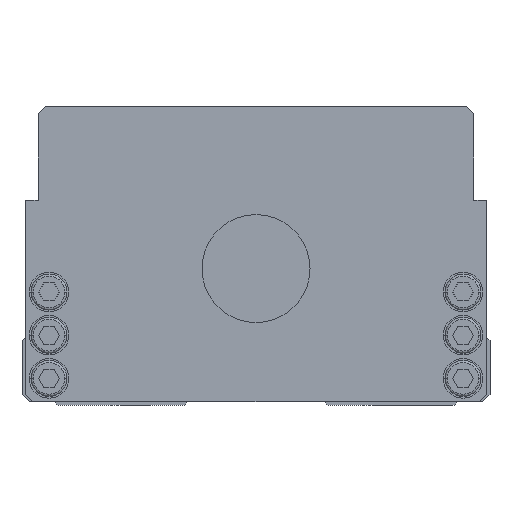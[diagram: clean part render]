
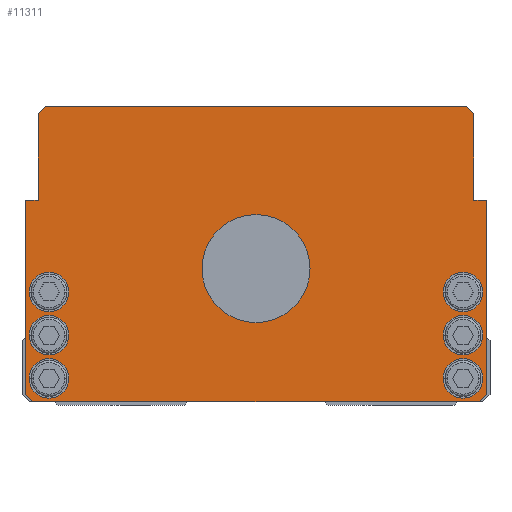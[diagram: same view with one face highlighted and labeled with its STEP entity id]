
A CAD part, front view. The second image highlights one B-rep face of the part: STEP entity #11311.
In plain terms, the highlighted planar face has unit normal (0, -1, 0).
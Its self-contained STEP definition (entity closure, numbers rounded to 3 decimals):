
#4019=VERTEX_POINT('',#11983);
#4331=VERTEX_POINT('',#12330);
#4335=VERTEX_POINT('',#12334);
#4377=EDGE_CURVE('',#11795,#4335,#12378,.T.);
#4527=VERTEX_POINT('',#12545);
#4661=EDGE_CURVE('',#4719,#8179,#12690,.T.);
#4705=EDGE_CURVE('',#7611,#9821,#12739,.T.);
#4719=VERTEX_POINT('',#12754);
#4747=VERTEX_POINT('',#12783);
#5349=VERTEX_POINT('',#13451);
#5449=EDGE_CURVE('',#4747,#10877,#13564,.T.);
#5551=EDGE_CURVE('',#4331,#8771,#13675,.T.);
#5901=EDGE_CURVE('',#8703,#8937,#14075,.T.);
#5915=VERTEX_POINT('',#14093);
#6005=VERTEX_POINT('',#14193);
#6171=EDGE_CURVE('',#8771,#4331,#14378,.T.);
#6297=EDGE_CURVE('',#5349,#8703,#14516,.T.);
#6339=VERTEX_POINT('',#14564);
#6349=EDGE_CURVE('',#8477,#8661,#14575,.T.);
#6655=VERTEX_POINT('',#14913);
#6701=EDGE_CURVE('',#6655,#10827,#14962,.T.);
#7017=EDGE_CURVE('',#4527,#11521,#15312,.T.);
#7083=EDGE_CURVE('',#11521,#4527,#15385,.T.);
#7125=EDGE_CURVE('',#5915,#10189,#15431,.T.);
#7175=EDGE_CURVE('',#8937,#7611,#15488,.T.);
#7211=EDGE_CURVE('',#6339,#10985,#15528,.T.);
#7611=VERTEX_POINT('',#15976);
#8179=VERTEX_POINT('',#16615);
#8477=VERTEX_POINT('',#16959);
#8505=EDGE_CURVE('',#10189,#5915,#16993,.T.);
#8661=VERTEX_POINT('',#17166);
#8703=VERTEX_POINT('',#17211);
#8771=VERTEX_POINT('',#17291);
#8889=VERTEX_POINT('',#17423);
#8903=EDGE_CURVE('',#10877,#6005,#17437,.T.);
#8937=VERTEX_POINT('',#17473);
#9803=EDGE_CURVE('',#6005,#8889,#18419,.T.);
#9821=VERTEX_POINT('',#18439);
#10189=VERTEX_POINT('',#18849);
#10643=EDGE_CURVE('',#10985,#6339,#19363,.T.);
#10693=EDGE_CURVE('',#9821,#4719,#19417,.T.);
#10827=VERTEX_POINT('',#19565);
#10877=VERTEX_POINT('',#19620);
#10985=VERTEX_POINT('',#19739);
#11015=EDGE_CURVE('',#8179,#4747,#19771,.T.);
#11055=EDGE_CURVE('',#8889,#4019,#19817,.T.);
#11301=EDGE_CURVE('',#4019,#5349,#20091,.T.);
#11311=ADVANCED_FACE('',(#20102,#20103,#20104,#20105,#20106,#20107,#20108,#20109),#20110,.T.);
#11521=VERTEX_POINT('',#20348);
#11547=EDGE_CURVE('',#4335,#11795,#20378,.T.);
#11563=EDGE_CURVE('',#8661,#8477,#20396,.T.);
#11795=VERTEX_POINT('',#20649);
#11857=EDGE_CURVE('',#10827,#6655,#20717,.T.);
#11983=CARTESIAN_POINT('',(64.0,0.0,3.0));
#12330=CARTESIAN_POINT('',(52.0,0.0,19.5));
#12334=CARTESIAN_POINT('',(15.0,0.0,38.0));
#12378=CIRCLE('',#21390,15.0);
#12545=CARTESIAN_POINT('',(52.0,0.0,31.5));
#12690=LINE('',#21817,#21818);
#12739=LINE('',#21884,#21885);
#12754=CARTESIAN_POINT('',(-60.5,0.0,81.0));
#12783=CARTESIAN_POINT('',(58.5,0.0,83.0));
#13451=CARTESIAN_POINT('',(62.0,0.0,1.0));
#13564=LINE('',#23010,#23011);
#13675=CIRCLE('',#23174,5.5);
#14075=LINE('',#23722,#23723);
#14093=CARTESIAN_POINT('',(-63.0,0.0,31.5));
#14193=CARTESIAN_POINT('',(60.5,0.0,57.0));
#14378=CIRCLE('',#24144,5.5);
#14516=LINE('',#24344,#24345);
#14564=CARTESIAN_POINT('',(-63.0,0.0,7.5));
#14575=CIRCLE('',#24422,5.5);
#14913=CARTESIAN_POINT('',(63.0,0.0,7.5));
#14962=CIRCLE('',#24963,5.5);
#15312=CIRCLE('',#25435,5.5);
#15385=CIRCLE('',#25539,5.5);
#15431=CIRCLE('',#25599,5.5);
#15488=LINE('',#25676,#25677);
#15528=CIRCLE('',#25737,5.5);
#15976=CARTESIAN_POINT('',(-64.0,0.0,57.0));
#16615=CARTESIAN_POINT('',(-58.5,0.0,83.0));
#16959=CARTESIAN_POINT('',(-52.0,0.0,19.5));
#16993=CIRCLE('',#27713,5.5);
#17166=CARTESIAN_POINT('',(-63.0,0.0,19.5));
#17211=CARTESIAN_POINT('',(-62.0,0.0,1.0));
#17291=CARTESIAN_POINT('',(63.0,0.0,19.5));
#17423=CARTESIAN_POINT('',(64.0,0.0,57.0));
#17437=LINE('',#28316,#28317);
#17473=CARTESIAN_POINT('',(-64.0,0.0,3.0));
#18419=LINE('',#29684,#29685);
#18439=CARTESIAN_POINT('',(-60.5,0.0,57.0));
#18849=CARTESIAN_POINT('',(-52.0,0.0,31.5));
#19363=CIRCLE('',#30982,5.5);
#19417=LINE('',#31055,#31056);
#19565=CARTESIAN_POINT('',(52.0,0.0,7.5));
#19620=CARTESIAN_POINT('',(60.5,0.0,81.0));
#19739=CARTESIAN_POINT('',(-52.0,0.0,7.5));
#19771=LINE('',#31565,#31566);
#19817=LINE('',#31622,#31623);
#20091=LINE('',#32010,#32011);
#20102=FACE_BOUND('',#32023,.T.);
#20103=FACE_BOUND('',#32024,.T.);
#20104=FACE_BOUND('',#32025,.T.);
#20105=FACE_BOUND('',#32026,.T.);
#20106=FACE_BOUND('',#32027,.T.);
#20107=FACE_BOUND('',#32028,.T.);
#20108=FACE_BOUND('',#32029,.T.);
#20109=FACE_OUTER_BOUND('',#32030,.T.);
#20110=PLANE('',#32031);
#20348=CARTESIAN_POINT('',(63.0,0.0,31.5));
#20378=CIRCLE('',#32393,15.0);
#20396=CIRCLE('',#32418,5.5);
#20649=CARTESIAN_POINT('',(-15.0,0.0,38.0));
#20717=CIRCLE('',#32856,5.5);
#21390=AXIS2_PLACEMENT_3D('',#33449,#33450,#33451);
#21817=CARTESIAN_POINT('',(-58.5,0.0,83.0));
#21818=VECTOR('',#33803,1.);
#21884=CARTESIAN_POINT('',(-60.5,0.0,57.0));
#21885=VECTOR('',#33870,1.0);
#23010=CARTESIAN_POINT('',(60.5,0.0,81.0));
#23011=VECTOR('',#34807,1.);
#23174=AXIS2_PLACEMENT_3D('',#34923,#34924,#34925);
#23722=CARTESIAN_POINT('',(-64.0,0.0,3.0));
#23723=VECTOR('',#35431,1.);
#24144=AXIS2_PLACEMENT_3D('',#35775,#35776,#35777);
#24344=CARTESIAN_POINT('',(-62.0,0.0,1.0));
#24345=VECTOR('',#35931,1.0);
#24422=AXIS2_PLACEMENT_3D('',#35999,#36000,#36001);
#24963=AXIS2_PLACEMENT_3D('',#36429,#36430,#36431);
#25435=AXIS2_PLACEMENT_3D('',#36814,#36815,#36816);
#25539=AXIS2_PLACEMENT_3D('',#36896,#36897,#36898);
#25599=AXIS2_PLACEMENT_3D('',#36955,#36956,#36957);
#25676=CARTESIAN_POINT('',(-64.0,0.0,57.0));
#25677=VECTOR('',#37040,1.0);
#25737=AXIS2_PLACEMENT_3D('',#37085,#37086,#37087);
#27713=AXIS2_PLACEMENT_3D('',#38850,#38851,#38852);
#28316=CARTESIAN_POINT('',(60.5,0.0,57.0));
#28317=VECTOR('',#39387,1.0);
#29684=CARTESIAN_POINT('',(64.0,0.0,57.0));
#29685=VECTOR('',#40441,1.0);
#30982=AXIS2_PLACEMENT_3D('',#41552,#41553,#41554);
#31055=CARTESIAN_POINT('',(-60.5,0.0,81.0));
#31056=VECTOR('',#41605,1.0);
#31565=CARTESIAN_POINT('',(58.5,0.0,83.0));
#31566=VECTOR('',#42001,1.0);
#31622=CARTESIAN_POINT('',(64.0,0.0,3.0));
#31623=VECTOR('',#42055,1.0);
#32010=CARTESIAN_POINT('',(62.0,0.0,1.0));
#32011=VECTOR('',#42361,1.);
#32023=EDGE_LOOP('',(#42378,#42379));
#32024=EDGE_LOOP('',(#42380,#42381));
#32025=EDGE_LOOP('',(#42382,#42383));
#32026=EDGE_LOOP('',(#42384,#42385));
#32027=EDGE_LOOP('',(#42386,#42387));
#32028=EDGE_LOOP('',(#42388,#42389));
#32029=EDGE_LOOP('',(#42390,#42391));
#32030=EDGE_LOOP('',(#42392,#42393,#42394,#42395,#42396,#42397,#42398,#42399,#42400,#42401,#42402,#42403));
#32031=AXIS2_PLACEMENT_3D('',#42404,#42405,#42406);
#32393=AXIS2_PLACEMENT_3D('',#42747,#42748,#42749);
#32418=AXIS2_PLACEMENT_3D('',#42766,#42767,#42768);
#32856=AXIS2_PLACEMENT_3D('',#43108,#43109,#43110);
#33449=CARTESIAN_POINT('',(0.0,0.0,38.0));
#33450=DIRECTION('',(-0.0,1.0,0.0));
#33451=DIRECTION('',(1.0,0.0,0.0));
#33803=DIRECTION('',(0.707,0.0,0.707));
#33870=DIRECTION('',(1.0,0.0,0.0));
#34807=DIRECTION('',(0.707,0.0,-0.707));
#34923=CARTESIAN_POINT('',(57.5,0.0,19.5));
#34924=DIRECTION('',(-0.0,1.0,0.0));
#34925=DIRECTION('',(1.0,0.0,0.0));
#35431=DIRECTION('',(-0.707,0.0,0.707));
#35775=CARTESIAN_POINT('',(57.5,0.0,19.5));
#35776=DIRECTION('',(-0.0,1.0,0.0));
#35777=DIRECTION('',(1.0,0.0,0.0));
#35931=DIRECTION('',(-1.0,0.0,-0.0));
#35999=CARTESIAN_POINT('',(-57.5,0.0,19.5));
#36000=DIRECTION('',(-0.0,1.0,0.0));
#36001=DIRECTION('',(1.0,0.0,0.0));
#36429=CARTESIAN_POINT('',(57.5,0.0,7.5));
#36430=DIRECTION('',(-0.0,1.0,0.0));
#36431=DIRECTION('',(1.0,0.0,0.0));
#36814=CARTESIAN_POINT('',(57.5,0.0,31.5));
#36815=DIRECTION('',(-0.0,1.0,0.0));
#36816=DIRECTION('',(1.0,0.0,0.0));
#36896=CARTESIAN_POINT('',(57.5,0.0,31.5));
#36897=DIRECTION('',(-0.0,1.0,0.0));
#36898=DIRECTION('',(1.0,0.0,0.0));
#36955=CARTESIAN_POINT('',(-57.5,0.0,31.5));
#36956=DIRECTION('',(-0.0,1.0,0.0));
#36957=DIRECTION('',(1.0,0.0,0.0));
#37040=DIRECTION('',(0.0,0.0,1.0));
#37085=CARTESIAN_POINT('',(-57.5,0.0,7.5));
#37086=DIRECTION('',(-0.0,1.0,0.0));
#37087=DIRECTION('',(1.0,0.0,0.0));
#38850=CARTESIAN_POINT('',(-57.5,0.0,31.5));
#38851=DIRECTION('',(-0.0,1.0,0.0));
#38852=DIRECTION('',(1.0,0.0,0.0));
#39387=DIRECTION('',(-0.0,0.0,-1.0));
#40441=DIRECTION('',(1.0,0.0,0.0));
#41552=CARTESIAN_POINT('',(-57.5,0.0,7.5));
#41553=DIRECTION('',(-0.0,1.0,0.0));
#41554=DIRECTION('',(1.0,0.0,0.0));
#41605=DIRECTION('',(0.0,0.0,1.0));
#42001=DIRECTION('',(1.0,0.0,0.0));
#42055=DIRECTION('',(-0.0,0.0,-1.0));
#42361=DIRECTION('',(-0.707,0.0,-0.707));
#42378=ORIENTED_EDGE('',*,*,#11547,.T.);
#42379=ORIENTED_EDGE('',*,*,#4377,.T.);
#42380=ORIENTED_EDGE('',*,*,#7083,.T.);
#42381=ORIENTED_EDGE('',*,*,#7017,.T.);
#42382=ORIENTED_EDGE('',*,*,#6171,.T.);
#42383=ORIENTED_EDGE('',*,*,#5551,.T.);
#42384=ORIENTED_EDGE('',*,*,#6701,.T.);
#42385=ORIENTED_EDGE('',*,*,#11857,.T.);
#42386=ORIENTED_EDGE('',*,*,#8505,.T.);
#42387=ORIENTED_EDGE('',*,*,#7125,.T.);
#42388=ORIENTED_EDGE('',*,*,#6349,.T.);
#42389=ORIENTED_EDGE('',*,*,#11563,.T.);
#42390=ORIENTED_EDGE('',*,*,#10643,.T.);
#42391=ORIENTED_EDGE('',*,*,#7211,.T.);
#42392=ORIENTED_EDGE('',*,*,#5901,.F.);
#42393=ORIENTED_EDGE('',*,*,#6297,.F.);
#42394=ORIENTED_EDGE('',*,*,#11301,.F.);
#42395=ORIENTED_EDGE('',*,*,#11055,.F.);
#42396=ORIENTED_EDGE('',*,*,#9803,.F.);
#42397=ORIENTED_EDGE('',*,*,#8903,.F.);
#42398=ORIENTED_EDGE('',*,*,#5449,.F.);
#42399=ORIENTED_EDGE('',*,*,#11015,.F.);
#42400=ORIENTED_EDGE('',*,*,#4661,.F.);
#42401=ORIENTED_EDGE('',*,*,#10693,.F.);
#42402=ORIENTED_EDGE('',*,*,#4705,.F.);
#42403=ORIENTED_EDGE('',*,*,#7175,.F.);
#42404=CARTESIAN_POINT('',(0.,0.0,41.562));
#42405=DIRECTION('',(0.0,-1.0,0.0));
#42406=DIRECTION('',(1.0,0.0,0.0));
#42747=CARTESIAN_POINT('',(0.0,0.0,38.0));
#42748=DIRECTION('',(-0.0,1.0,0.0));
#42749=DIRECTION('',(1.0,0.0,0.0));
#42766=CARTESIAN_POINT('',(-57.5,0.0,19.5));
#42767=DIRECTION('',(-0.0,1.0,0.0));
#42768=DIRECTION('',(1.0,0.0,0.0));
#43108=CARTESIAN_POINT('',(57.5,0.0,7.5));
#43109=DIRECTION('',(-0.0,1.0,0.0));
#43110=DIRECTION('',(1.0,0.0,0.0));
